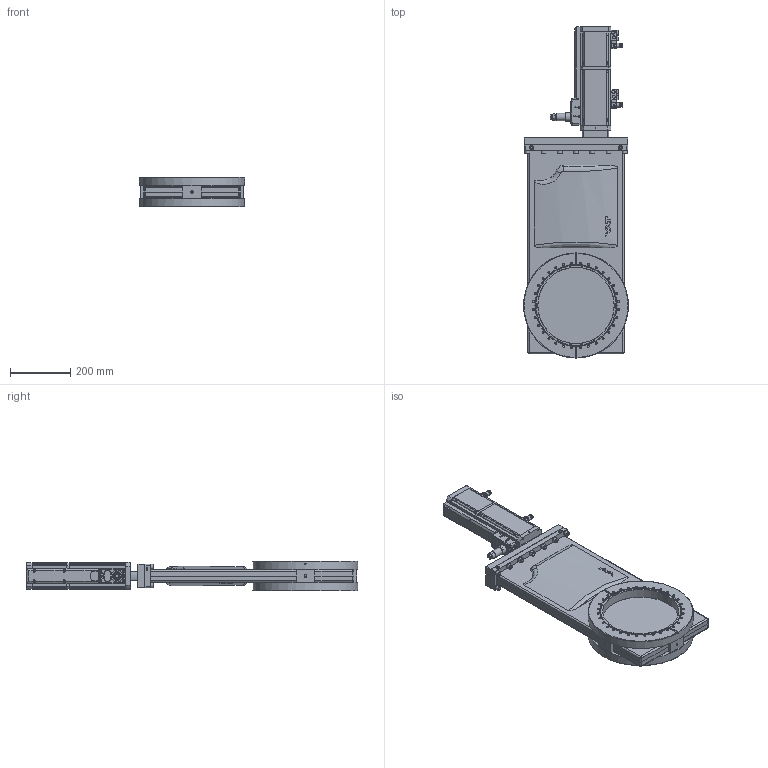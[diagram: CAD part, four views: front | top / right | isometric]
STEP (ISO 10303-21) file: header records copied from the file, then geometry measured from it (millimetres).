
FILE_DESCRIPTION(/* description */ (''),/* implementation_level */ '2;1');
FILE_NAME(/* name */ '1075110674_203.stp',/* time_stamp */ '2016-02-03T12:44:28+01:00',/* author */ (''),/* organization */ (''),/* preprocessor_version */ 'ST-DEVELOPER v15',/* originating_system */ 'SIEMENS PLM Software NX 9.0',/* authorisation */ '');
FILE_SCHEMA (('AP203_CONFIGURATION_CONTROLLED_3D_DESIGN_OF_MECHANICAL_PARTS_AND_ASSEMBLIES_MIM_LF { 1 0 10303 403 2 1 2}'));
Length unit declared in the file: millimetre
Products named in the file (53): 65664-01.2_25129ID; 65664-01.2_25104ID; n-6005-535.1_25120ID; 209489_1.1; 436171_25086ID; 436171_25089ID; 467882; 437235; 70973-01.1; n-8504-002; N-6024-548.1; 72770-01.4; N-6005-437.1; N-6005-477.1; N-6005-473.1; 72979-01.1; 72846-01.1; 73706-01.1; 73692-01.1; 87601-01.1; 70738-01.1; 73691-01.1; 87602-01.1; 87609-01.1; 210324.3_25082ID; 210324.3_25083ID; 77900.1; 74628-01.3; 89473-01.1; 82418-01.1; N-7557-016_1.1; N-7557-018.1; N-7557-016_2.1; N-6024-524.1; N-5018-005.1; 775041; 77876-01.1; 77858-01.1; 65313-01.1; N-5019-840.1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
Assembly tree (103 placements, depth 4):
  497805
    94800-r1.7_NX-ARRAGMNTKONFIG1  x2
      N-5018-005.1
      N-6024-524.1
      N-7557-016_2.1
      N-7557-018.1
      N-7557-016_1.1
      N-7557-016_3.1_MODELNX-ARRAGMNTArrangement 1
        437235
        467882
    90208-r1
      82418-01.1
      89473-01.1
      74628-01.3
    n-6134-410  x14
    N-5019-840.1  x14
    65313-01.1
    206808.2
      77900.1  x3
      210260.1
        436171_25089ID
        436171_25086ID
        209489_1.1
      210324.3_25083ID
      210324.3_25082ID
    77858-01.1
    77876-01.1
    94309-r1.2
      87609-01.1  x4
      87602-01.1
      73691-01.1
      70738-01.1
      87601-01.1
      73692-01.1
      73706-01.1
      72846-01.1
      72979-01.1
      N-6005-473.1  x2
      87606-01.1
        n-6005-535.1_25120ID
      N-6005-477.1  x4
      N-6005-437.1  x4
      94313-01.2
        65664-01.2_25104ID
    94238-R1.4
      72770-01.4  x4
      94225-01.1
        65664-01.2_25129ID
    775041
    775146_MODEL
      N-6024-548.1  x4
      n-8504-002
      70973-01.1
Bounding box: 350 x 1106.45 x 99.75 mm (x, y, z)
Volume: 8421430.5 mm3; surface area: 2042076.3 mm2
Topology: 155 solids, 155 shells, 3496 faces, 8579 edges, 5604 vertices
Faces by surface type: plane 2043, cylinder 905, cone 254, torus 125, extrusion 103, sphere 38, bspline 28
Full cylindrical faces by diameter (mm): 0.5 x1, 1.2 x1, 1.66 x7, 2 x1, 2.125 x1, 2.5 x10, 2.65 x1, 3 x20, 3.2 x4, 3.26 x4, 3.3 x14, 3.4 x8, 3.5 x6, 3.65 x2, 4 x16, 4.2 x5, 4.22 x2, 4.3 x6, 4.31 x4, 4.35 x2, 4.4 x4, 4.45 x4, 4.5 x2, 4.625 x2, 4.96 x6, 5 x24, 5.5 x2, 5.9 x1, 6 x39, 6.25 x2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
Entity records: 85894 total; most frequent: CARTESIAN_POINT 20201, DIRECTION 10304, ORIENTED_EDGE 10204, EDGE_CURVE 5102, AXIS2_PLACEMENT_3D 3904, VERTEX_POINT 3689, EDGE_LOOP 3267, VECTOR 2496
